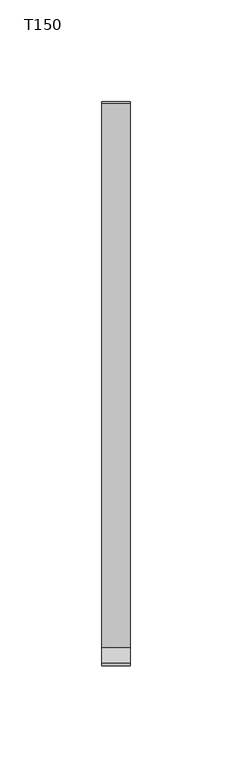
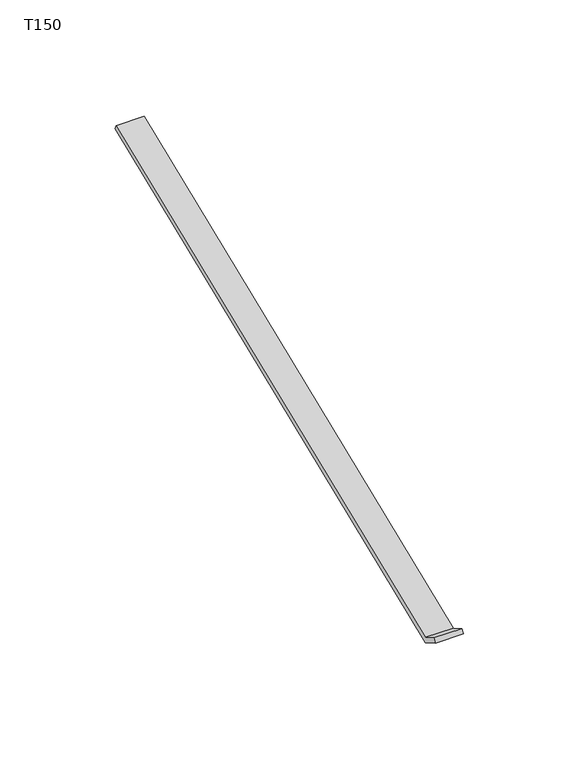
"""IFC4 building model written with IfcOpenShell, lengths in millimetres: proxy geometry, GROVIK_Gutter_Support rod : T150."""

from ifc_helpers import new_model, si_unit, frame, origin, place, context, project, spatial, polyline, outline, extrude, source, transform, mapped, element, save


def t150_e18a62fa(model_context):
    return source(origin(), model_context, "Body", "SweptSolid", [
        extrude(outline(polyline([(137.3833178, 108.6359121), (-131.5, 0.0), (-140.160254, 5.0), (-138.960254, 7.078461), (-131.3137331, 2.6637401), (136.484262, 110.8611533), (137.3833178, 108.6359121)])), frame((-7.0, 0.0, 0.0), z_axis=(1.0, 0.0, 0.0), x_axis=(0.0, 1.0, 0.0)), (0.0, 0.0, 1.0), 14.0),
    ])


if __name__ == "__main__":
    model = new_model("IFC4")
    model_context = context("Model", 3, world=origin())
    ifc_project = project(units=[si_unit("LENGTHUNIT", "METRE", prefix="MILLI")], contexts=[model_context])
    site = spatial("IfcSite", under=ifc_project)
    building = spatial("IfcBuilding", under=site)
    placement = place(None, origin())
    t150_shape = t150_e18a62fa(model_context)
    element("IfcBuildingElementProxy", 1, Name="GROVIK_Gutter_Support rod : T150", ObjectType="GROVIK_Gutter_Support rod : T150", at=placement, inside=building, context=model_context, shape_type="MappedRepresentation", body=[
        mapped(t150_shape, transform((0.0, 0.0, 0.0), x_axis=(1.0, 0.0, 0.0), y_axis=(0.0, 1.0, 0.0), z_axis=(0.0, 0.0, 1.0))),
    ])
    save(model, "model.ifc")
